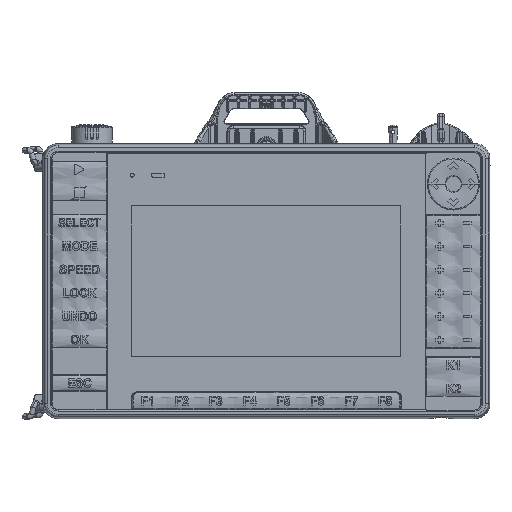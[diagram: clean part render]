
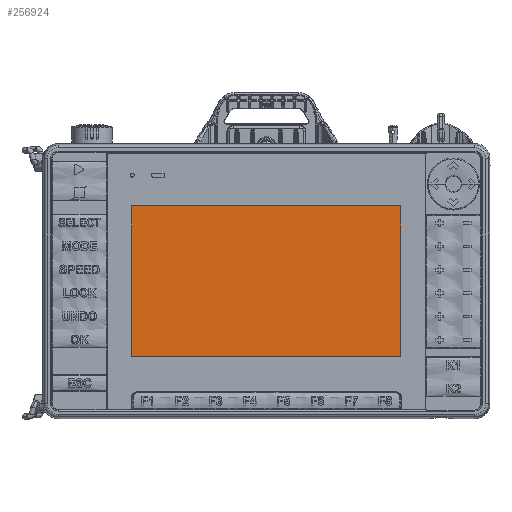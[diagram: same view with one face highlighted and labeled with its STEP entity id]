
A CAD part, top view. The second image highlights one B-rep face of the part: STEP entity #256924.
In plain terms, the highlighted planar face has unit normal (0, 0, 1).
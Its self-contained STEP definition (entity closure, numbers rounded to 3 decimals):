
#16692 = DIRECTION ( 'NONE',  ( 0., -1., 0. ) ) ;
#18735 = ORIENTED_EDGE ( 'NONE', *, *, #179143, .T. ) ;
#18877 = FACE_OUTER_BOUND ( 'NONE', #151134, .T. ) ;
#23146 = CARTESIAN_POINT ( 'NONE',  ( -243.656, 22.421, 1008.78 ) ) ;
#35338 = CARTESIAN_POINT ( 'NONE',  ( -398.866, -64.499, 1008.78 ) ) ;
#40283 = EDGE_CURVE ( 'NONE', #302484, #269931, #74108, .T. ) ;
#43220 = ORIENTED_EDGE ( 'NONE', *, *, #291744, .T. ) ;
#53158 = VERTEX_POINT ( 'NONE', #183862 ) ;
#55559 = CARTESIAN_POINT ( 'NONE',  ( -398.866, 22.421, 1008.78 ) ) ;
#64835 = AXIS2_PLACEMENT_3D ( 'NONE', #113001, #301277, #89874 ) ;
#74108 = LINE ( 'NONE', #243789, #226469 ) ;
#78644 = DIRECTION ( 'NONE',  ( -1., 0., 0. ) ) ;
#89874 = DIRECTION ( 'NONE',  ( 1., 0., 0. ) ) ;
#111003 = DIRECTION ( 'NONE',  ( 0., 1., 0. ) ) ;
#113001 = CARTESIAN_POINT ( 'NONE',  ( -321.261, -21.039, 1008.78 ) ) ;
#122568 = DIRECTION ( 'NONE',  ( 1., 0., 0. ) ) ;
#129688 = VECTOR ( 'NONE', #111003, 1000. ) ;
#136890 = VERTEX_POINT ( 'NONE', #35338 ) ;
#137208 = CARTESIAN_POINT ( 'NONE',  ( -243.656, -64.499, 1008.78 ) ) ;
#151134 = EDGE_LOOP ( 'NONE', ( #43220, #302092, #18735, #266886 ) ) ;
#160149 = CARTESIAN_POINT ( 'NONE',  ( -398.866, -64.499, 1008.78 ) ) ;
#171568 = VECTOR ( 'NONE', #122568, 1000. ) ;
#179143 = EDGE_CURVE ( 'NONE', #269931, #136890, #184827, .T. ) ;
#183862 = CARTESIAN_POINT ( 'NONE',  ( -243.656, -64.499, 1008.78 ) ) ;
#184827 = LINE ( 'NONE', #160149, #231243 ) ;
#188995 = LINE ( 'NONE', #263064, #171568 ) ;
#226469 = VECTOR ( 'NONE', #78644, 1000. ) ;
#231243 = VECTOR ( 'NONE', #16692, 1000. ) ;
#233371 = PLANE ( 'NONE',  #64835 ) ;
#243789 = CARTESIAN_POINT ( 'NONE',  ( -243.656, 22.421, 1008.78 ) ) ;
#256924 = ADVANCED_FACE ( 'NONE', ( #18877 ), #233371, .T. ) ;
#263064 = CARTESIAN_POINT ( 'NONE',  ( -243.656, -64.499, 1008.78 ) ) ;
#266886 = ORIENTED_EDGE ( 'NONE', *, *, #303154, .T. ) ;
#269931 = VERTEX_POINT ( 'NONE', #55559 ) ;
#291744 = EDGE_CURVE ( 'NONE', #53158, #302484, #296244, .T. ) ;
#296244 = LINE ( 'NONE', #137208, #129688 ) ;
#301277 = DIRECTION ( 'NONE',  ( 0., 0., 1. ) ) ;
#302092 = ORIENTED_EDGE ( 'NONE', *, *, #40283, .T. ) ;
#302484 = VERTEX_POINT ( 'NONE', #23146 ) ;
#303154 = EDGE_CURVE ( 'NONE', #136890, #53158, #188995, .T. ) ;
